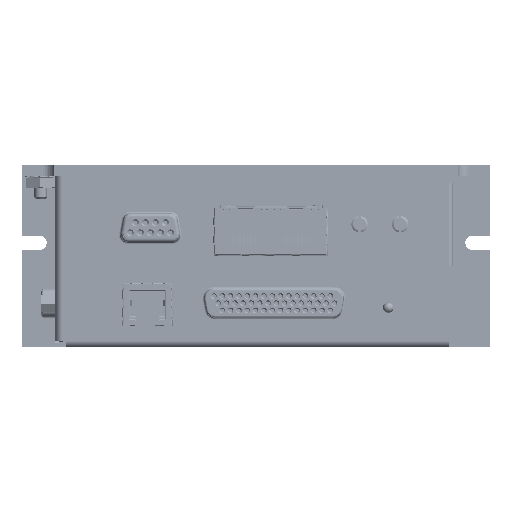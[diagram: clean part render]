
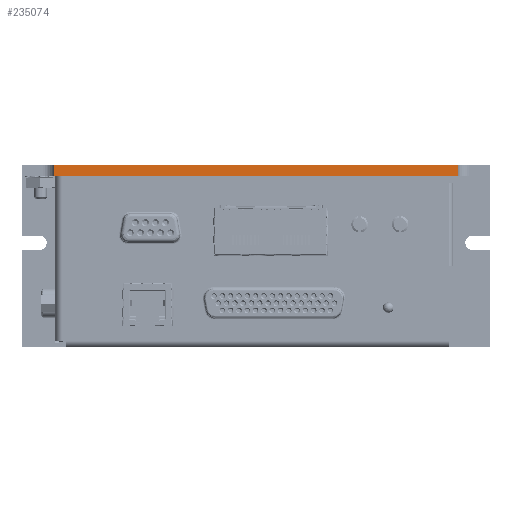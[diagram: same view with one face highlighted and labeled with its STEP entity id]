
A CAD part, front view. The second image highlights one B-rep face of the part: STEP entity #235074.
In plain terms, the highlighted planar face has unit normal (0, -1, 0) as drawn and (-1, 0, 0) by its records, which use the part's own axes.
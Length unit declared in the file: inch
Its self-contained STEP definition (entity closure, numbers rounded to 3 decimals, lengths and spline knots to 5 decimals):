
#26707 = DIRECTION ( 'NONE',  ( 0., 0., -1. ) ) ;
#44537 = LINE ( 'NONE', #162172, #279086 ) ;
#46277 = LINE ( 'NONE', #391108, #205982 ) ;
#59381 = CARTESIAN_POINT ( 'NONE',  ( -3.285, -0.125, 2.19 ) ) ;
#67162 = DIRECTION ( 'NONE',  ( 0., 0., -1. ) ) ;
#71572 = CARTESIAN_POINT ( 'NONE',  ( -3.285, -0.125, -2.19 ) ) ;
#76614 = CARTESIAN_POINT ( 'NONE',  ( -3.285, 0., -2.19 ) ) ;
#81572 = EDGE_CURVE ( 'NONE', #158928, #220146, #44537, .T. ) ;
#98289 = EDGE_CURVE ( 'NONE', #151451, #158928, #104879, .T. ) ;
#100011 = EDGE_CURVE ( 'NONE', #220146, #213060, #337529, .T. ) ;
#104879 = LINE ( 'NONE', #244717, #264655 ) ;
#105535 = DIRECTION ( 'NONE',  ( 0., 0., -1. ) ) ;
#115805 = FACE_OUTER_BOUND ( 'NONE', #241540, .T. ) ;
#125592 = AXIS2_PLACEMENT_3D ( 'NONE', #408354, #217915, #26707 ) ;
#133572 = CARTESIAN_POINT ( 'NONE',  ( -3.285, 0., -2.19 ) ) ;
#151451 = VERTEX_POINT ( 'NONE', #59381 ) ;
#154366 = ORIENTED_EDGE ( 'NONE', *, *, #100011, .T. ) ;
#158103 = ORIENTED_EDGE ( 'NONE', *, *, #215535, .F. ) ;
#158928 = VERTEX_POINT ( 'NONE', #284893 ) ;
#162172 = CARTESIAN_POINT ( 'NONE',  ( -3.285, 0., 2.54 ) ) ;
#205982 = VECTOR ( 'NONE', #105535, 39.37008 ) ;
#213060 = VERTEX_POINT ( 'NONE', #71572 ) ;
#215535 = EDGE_CURVE ( 'NONE', #151451, #213060, #46277, .T. ) ;
#216547 = PLANE ( 'NONE',  #125592 ) ;
#217915 = DIRECTION ( 'NONE',  ( 1., 0., 0. ) ) ;
#220146 = VERTEX_POINT ( 'NONE', #133572 ) ;
#235074 = ADVANCED_FACE ( 'NONE', ( #115805 ), #216547, .F. ) ;
#241540 = EDGE_LOOP ( 'NONE', ( #158103, #340103, #295800, #154366 ) ) ;
#244717 = CARTESIAN_POINT ( 'NONE',  ( -3.285, 0., 2.19 ) ) ;
#253190 = VECTOR ( 'NONE', #299722, 39.37008 ) ;
#264655 = VECTOR ( 'NONE', #308605, 39.37008 ) ;
#279086 = VECTOR ( 'NONE', #67162, 39.37008 ) ;
#284893 = CARTESIAN_POINT ( 'NONE',  ( -3.285, 0., 2.19 ) ) ;
#295800 = ORIENTED_EDGE ( 'NONE', *, *, #81572, .T. ) ;
#299722 = DIRECTION ( 'NONE',  ( 0., -1., 0. ) ) ;
#308605 = DIRECTION ( 'NONE',  ( 0., 1., 0. ) ) ;
#337529 = LINE ( 'NONE', #76614, #253190 ) ;
#340103 = ORIENTED_EDGE ( 'NONE', *, *, #98289, .T. ) ;
#391108 = CARTESIAN_POINT ( 'NONE',  ( -3.285, -0.125, 2.54 ) ) ;
#408354 = CARTESIAN_POINT ( 'NONE',  ( -3.285, 0., 2.54 ) ) ;
